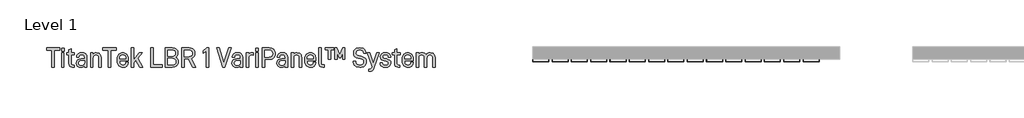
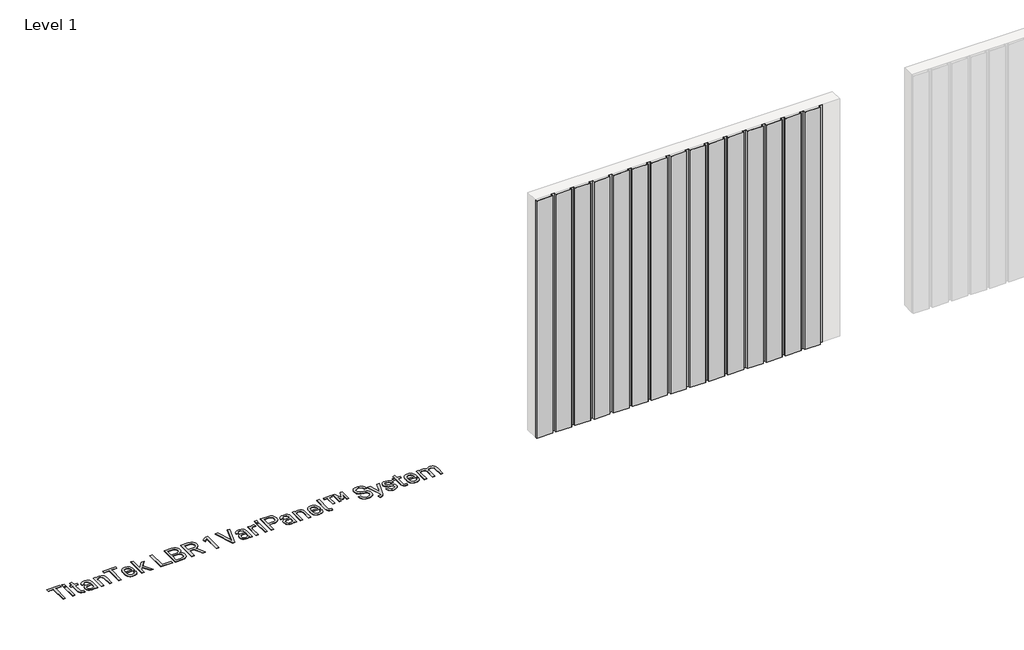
# One storey, part 24 of 33: 2 proxies.
"""IFC4 building model written with IfcOpenShell, lengths in millimetres."""

from ifc_helpers import new_model, si_unit, origin, origin_with_axes, place, context, project, spatial, polyline, outline, extrude, transform, mapped, element, save
from components import aluminum_slate_gray_941ba9cd

model = new_model("IFC4")

# Units and contexts
model_context = context("Model", 3, world=origin())
ifc_project = project(units=[si_unit("LENGTHUNIT", "METRE", prefix="MILLI")], contexts=[model_context])

# Site, building, storey
site = spatial("IfcSite", under=ifc_project)
building = spatial("IfcBuilding", under=site)
storey = spatial("IfcBuildingStorey", under=building, Name="Level 1", Elevation=0.0)

# Proxies
placement = place(None, origin())
element("IfcBuildingElementProxy", 1, Name="600mm Arial 2", ObjectType="600mm Arial 2", at=placement, inside=storey, context=model_context, shape_type="SweptSolid", body=[
    extrude(outline(polyline([(-9914.9924556, 82220.4128343), (-9914.9924556, 81952.9873502), (-9954.4439015, 81952.9873502), (-9954.4439015, 82220.4128343), (-10038.8787304, 82220.4128343), (-10038.8787304, 82257.3166776), (-9830.5576267, 82257.3166776), (-9830.5576267, 82220.4128343), (-9914.9924556, 82220.4128343)])), origin_with_axes(), (0.0, 0.0, 1.0), 5.0),
    extrude(outline(polyline([(-9763.1553408, 82253.0221475), (-9763.1553408, 82205.8551051), (-9802.6067867, 82205.8551051), (-9802.6067867, 82253.0221475), (-9763.1553408, 82253.0221475)])), origin_with_axes(), (0.0, 0.0, 1.0), 5.0),
    extrude(outline(polyline([(-9764.0288046, 82178.8505176), (-9764.0288046, 81952.9873502), (-9801.733323, 81952.9873502), (-9801.733323, 82178.8505176), (-9764.0288046, 82178.8505176)])), origin_with_axes(), (0.0, 0.0, 1.0), 5.0),
    extrude(outline(polyline([(-9648.294858, 82012.601251), (-9646.8208879, 82001.5191797), (-9642.3989777, 81993.6034145), (-9635.0291273, 81988.8539554), (-9624.7113368, 81987.2708023), (-9603.2386864, 81987.2708023), (-9603.2386864, 81952.9873502), (-9629.3698101, 81952.9873502), (-9653.1535001, 81956.9543314), (-9671.3688587, 81968.855275), (-9682.6692959, 81987.3981825), (-9686.4361083, 82011.2910554), (-9686.4361083, 82147.1146681), (-9720.2828285, 82147.1146681), (-9720.2828285, 82178.8505176), (-9686.4361083, 82178.8505176), (-9686.4361083, 82226.8910237), (-9648.294858, 82244.8698192), (-9648.294858, 82178.8505176), (-9599.3808881, 82178.8505176), (-9599.3808881, 82147.1146681), (-9648.294858, 82147.1146681), (-9648.294858, 82012.601251)])), origin_with_axes(), (0.0, 0.0, 1.0), 5.0),
    extrude(outline(polyline([(-9422.8684225, 82162.1091291), (-9413.2830677, 82151.3409589), (-9406.4363858, 82138.2526505), (-9400.9590402, 82105.1156196), (-9400.9590402, 81952.9873502), (-9438.2996154, 81952.9873502), (-9438.2996154, 81969.2920069), (-9456.7151427, 81956.8451485), (-9473.7476858, 81952.0410978), (-9493.9829293, 81950.4397476), (-9526.0281305, 81954.7160806), (-9550.1029751, 81967.5450794), (-9565.2248162, 81989.3270816), (-9570.2654299, 82018.5699199), (-9565.1338304, 82046.2114081), (-9549.7390318, 82067.4111012), (-9525.063681, 82080.6222403), (-9493.1094655, 82085.0259534), (-9438.7363472, 82085.0259534), (-9438.7363472, 82105.5523515), (-9441.6296959, 82124.441005), (-9450.3097419, 82138.1616647), (-9464.2305704, 82146.1866129), (-9483.7197302, 82148.8615956), (-9502.2262434, 82146.6051476), (-9515.819523, 82139.8358036), (-9524.1720201, 82129.4816187), (-9526.9561857, 82115.4516073), (-9526.9561857, 82109.8468816), (-9563.8600291, 82109.8468816), (-9563.8600291, 82116.2522824), (-9558.4008807, 82143.2932642), (-9542.0234354, 82164.2927885), (-9516.8203668, 82177.4493362), (-9484.1564621, 82181.8348521), (-9448.6719974, 82176.9034213), (-9434.5600987, 82170.7391329), (-9422.8684225, 82162.1091291)]), holes=[polyline([(-9450.6736851, 81994.5496669), (-9441.7206817, 82009.4531421), (-9438.7363472, 82031.0167784), (-9438.7363472, 82054.9642428), (-9488.8149354, 82054.9642428), (-9507.9538, 82052.7168933), (-9521.6244175, 82045.974845), (-9529.826788, 82034.7380979), (-9532.5609115, 82019.0066518), (-9529.8540837, 82003.0522906), (-9521.7336004, 81991.6563182), (-9508.1994616, 81984.8187348), (-9489.2516673, 81982.5395404), (-9466.104878, 81985.542072), (-9450.6736851, 81994.5496669)])]), origin_with_axes(), (0.0, 0.0, 1.0), 5.0),
    extrude(outline(polyline([(-9306.6977441, 82178.8505176), (-9306.6977441, 82160.4349903), (-9288.2822167, 82173.6825238), (-9271.1222935, 82179.4692211), (-9252.2518372, 82181.3981202), (-9219.9154813, 82175.9389718), (-9206.7907787, 82169.1150363), (-9195.6950595, 82159.5615265), (-9187.0650557, 82147.9790333), (-9180.9007673, 82134.1946835), (-9175.9693365, 82100.0204144), (-9175.9693365, 81952.9873502), (-9213.673855, 81952.9873502), (-9213.673855, 82095.7258843), (-9216.6763866, 82118.1083928), (-9225.6839815, 82133.8671346), (-9240.3781893, 82143.4752358), (-9259.567096, 82146.6779363), (-9278.7378056, 82143.4752358), (-9293.3774219, 82133.8671346), (-9303.0401146, 82117.453295), (-9306.2610122, 82095.7258843), (-9306.2610122, 81952.9873502), (-9343.9655306, 81952.9873502), (-9343.9655306, 82178.8505176), (-9306.6977441, 82178.8505176)])), origin_with_axes(), (0.0, 0.0, 1.0), 5.0),
    extrude(outline(polyline([(-9025.2240514, 82220.4128343), (-9025.2240514, 81952.9873502), (-9064.6754974, 81952.9873502), (-9064.6754974, 82220.4128343), (-9149.1103263, 82220.4128343), (-9149.1103263, 82257.3166776), (-8940.7892225, 82257.3166776), (-8940.7892225, 82220.4128343), (-9025.2240514, 82220.4128343)])), origin_with_axes(), (0.0, 0.0, 1.0), 5.0),
    extrude(outline(polyline([(-8884.5235994, 82047.2486463), (-8881.1025331, 82017.8329349), (-8870.8393341, 81998.8805913), (-8854.3527058, 81988.5900965), (-8832.2613519, 81985.1599316), (-8812.990558, 81987.7257314), (-8798.8513635, 81995.4231306), (-8790.1713175, 82007.1966941), (-8787.2779689, 82022.86445), (-8787.2779689, 82028.3963871), (-8750.3741256, 82028.3963871), (-8750.3741256, 82021.9909863), (-8756.0516399, 81992.8391337), (-8763.1485329, 81980.528754), (-8773.084183, 81969.7287387), (-8799.7976159, 81955.2619954), (-8834.3722226, 81950.4397476), (-8853.3222916, 81951.9387388), (-8870.2843206, 81956.4357123), (-8885.2583098, 81963.9306682), (-8898.2442591, 81974.4236064), (-8908.7371973, 81988.0237099), (-8916.2321532, 82004.8401617), (-8920.7291267, 82024.8729617), (-8922.2281179, 82048.1221101), (-8922.2281179, 82085.8266285), (-8920.7314014, 82108.5321367), (-8916.2412518, 82128.1714231), (-8908.7576691, 82144.7444879), (-8898.2806535, 82158.2513309), (-8885.4971476, 82168.5691214), (-8870.7301511, 82175.9389718), (-8853.979664, 82180.360882), (-8835.2456864, 82181.8348521), (-8816.8438069, 82180.360882), (-8800.2161506, 82175.9389718), (-8785.3627176, 82168.5691214), (-8772.2835079, 82158.2513309), (-8761.9657174, 82144.9082623), (-8754.595867, 82128.389789), (-8750.1739568, 82108.6959111), (-8748.6999867, 82085.8266285), (-8748.6999867, 82055.8377065), (-8884.5235994, 82055.8377065), (-8884.5235994, 82047.2486463)]), holes=[polyline([(-8871.2760659, 82133.4304027), (-8881.2117161, 82115.30603), (-8884.5235994, 82086.7000923), (-8786.4045051, 82086.2633604), (-8786.4045051, 82089.6844267), (-8789.6254027, 82116.9255774), (-8799.2880954, 82134.3038665), (-8814.9012599, 82143.5844188), (-8835.2456864, 82146.6779363), (-8855.60831, 82143.3660529), (-8871.2760659, 82133.4304027)])]), origin_with_axes(), (0.0, 0.0, 1.0), 5.0),
    extrude(outline(polyline([(-8663.391694, 82020.3168474), (-8663.391694, 81952.9873502), (-8701.0962125, 81952.9873502), (-8701.0962125, 82257.3166776), (-8663.391694, 82257.3166776), (-8663.391694, 82070.8321675), (-8575.0990669, 82178.8505176), (-8528.3687564, 82178.8505176), (-8602.5403863, 82091.8680861), (-8517.6688255, 81952.9873502), (-8563.5256722, 81952.9873502), (-8627.7980463, 82062.6798392), (-8663.391694, 82020.3168474)])), origin_with_axes(), (0.0, 0.0, 1.0), 5.0),
    extrude(outline(polyline([(-8356.2963981, 82257.3166776), (-8356.2963981, 81989.8184049), (-8208.8993907, 81989.8184049), (-8208.8993907, 81952.9873502), (-8396.1845759, 81952.9873502), (-8396.1845759, 82257.3166776), (-8356.2963981, 82257.3166776)])), origin_with_axes(), (0.0, 0.0, 1.0), 5.0),
    extrude(outline(polyline([(-7972.0451379, 82085.8266285), (-7962.0548962, 82064.117415), (-7958.7248157, 82038.2956429), (-7960.3056941, 82019.4251865), (-7965.0483293, 82002.7019952), (-7972.9527213, 81988.1260689), (-7984.0188701, 81975.6974077), (-7997.7918466, 81965.7617575), (-8013.8167219, 81958.6648646), (-8052.6221686, 81952.9873502), (-8167.9193832, 81952.9873502), (-8167.9193832, 82257.3166776), (-8055.1697712, 82257.3166776), (-8016.7373663, 82251.948515), (-8001.1242018, 82245.2383117), (-7987.9130626, 82235.8440271), (-7977.2131317, 82223.8520978), (-7969.5703239, 82209.7129034), (-7964.9846392, 82193.4264439), (-7963.4560777, 82174.9927194), (-7966.6769752, 82152.1552818), (-7976.3396679, 82131.6834753), (-7987.7856825, 82118.6179134), (-8001.597328, 82109.4101497), (-7984.7831508, 82099.2197393), (-7972.0451379, 82085.8266285)]), holes=[polyline([(-8013.6074545, 82002.7019952), (-8002.3616088, 82018.351554), (-7998.6129935, 82040.4065136), (-8002.2524258, 82062.0793329), (-8013.1707226, 82077.310357), (-8031.1677153, 82086.9184582), (-8056.0432349, 82090.1211586), (-8128.0312054, 82090.1211586), (-8128.0312054, 81989.4544617), (-8056.4799668, 81989.4544617), (-8031.6044471, 81992.7663451), (-8013.6074545, 82002.7019952)]), polyline([(-8128.0312054, 82126.5882701), (-8058.5908375, 82126.5882701), (-8035.2438794, 82129.4816187), (-8017.4652527, 82138.1616647), (-8006.8745048, 82152.737591), (-8003.3442555, 82173.3185806), (-8006.7653218, 82193.77219), (-8017.0285209, 82208.8394396), (-8034.2066412, 82217.8470345), (-8058.2268943, 82220.8495661), (-8128.0312054, 82220.8495661), (-8128.0312054, 82126.5882701)])]), origin_with_axes(), (0.0, 0.0, 1.0), 5.0),
    extrude(outline(polyline([(-7862.4982262, 82082.842294), (-7862.4982262, 81952.9873502), (-7902.386404, 81952.9873502), (-7902.386404, 82257.3166776), (-7788.3993849, 82257.3166776), (-7749.9123886, 82251.6391632), (-7733.9580273, 82244.5422703), (-7720.196424, 82234.6066202), (-7709.1461977, 82221.8777058), (-7701.253179, 82206.8377519), (-7696.5173677, 82189.4867585), (-7694.938764, 82169.8247256), (-7699.3242799, 82139.8540007), (-7712.4808275, 82115.0148754), (-7731.5696499, 82097.9641352), (-7756.2268036, 82087.1368241), (-7685.5490287, 81952.9873502), (-7731.4058754, 81952.9873502), (-7798.2258521, 82082.842294), (-7862.4982262, 82082.842294)]), holes=[polyline([(-7790.9469875, 82118.4359417), (-7766.6173827, 82121.7478251), (-7749.3846709, 82131.6834753), (-7738.466374, 82147.5695972), (-7734.8269418, 82169.4607823), (-7738.3571911, 82191.6158263), (-7748.947939, 82207.5656383), (-7766.5081998, 82217.2010353), (-7790.9469875, 82220.4128343), (-7862.4982262, 82220.4128343), (-7862.4982262, 82118.4359417), (-7790.9469875, 82118.4359417)])]), origin_with_axes(), (0.0, 0.0, 1.0), 5.0),
    extrude(outline(polyline([(-7565.8117066, 82170.2614574), (-7565.8117066, 82216.1183042), (-7512.2392634, 82257.3166776), (-7475.4082087, 82257.3166776), (-7475.4082087, 81952.9873502), (-7514.8596547, 81952.9873502), (-7514.8596547, 82208.4027077), (-7565.8117066, 82170.2614574)])), origin_with_axes(), (0.0, 0.0, 1.0), 5.0),
    extrude(outline(polyline([(-7164.4551146, 82257.3166776), (-7122.892798, 82257.3166776), (-7222.3220879, 81952.9873502), (-7254.0579374, 81952.9873502), (-7353.0504954, 82257.3166776), (-7311.4881788, 82257.3166776), (-7237.7532808, 82022.86445), (-7164.4551146, 82257.3166776)])), origin_with_axes(), (0.0, 0.0, 1.0), 5.0),
    extrude(outline(polyline([(-6963.1945095, 82162.1091291), (-6953.6091547, 82151.3409589), (-6946.7624727, 82138.2526505), (-6941.2851271, 82105.1156196), (-6941.2851271, 81952.9873502), (-6978.6257023, 81952.9873502), (-6978.6257023, 81969.2920069), (-6997.0412297, 81956.8451485), (-7014.0737728, 81952.0410978), (-7034.3090162, 81950.4397476), (-7066.3542175, 81954.7160806), (-7090.429062, 81967.5450794), (-7105.5509031, 81989.3270816), (-7110.5915169, 82018.5699199), (-7105.4599173, 82046.2114081), (-7090.0651188, 82067.4111012), (-7065.3897679, 82080.6222403), (-7033.4355525, 82085.0259534), (-6979.0624342, 82085.0259534), (-6979.0624342, 82105.5523515), (-6981.9557829, 82124.441005), (-6990.6358289, 82138.1616647), (-7004.5566573, 82146.1866129), (-7024.0458172, 82148.8615956), (-7042.5523304, 82146.6051476), (-7056.1456099, 82139.8358036), (-7064.498107, 82129.4816187), (-7067.2822727, 82115.4516073), (-7067.2822727, 82109.8468816), (-7104.186116, 82109.8468816), (-7104.186116, 82116.2522824), (-7098.7269676, 82143.2932642), (-7082.3495224, 82164.2927885), (-7057.1464538, 82177.4493362), (-7024.4825491, 82181.8348521), (-6988.9980843, 82176.9034213), (-6974.8861857, 82170.7391329), (-6963.1945095, 82162.1091291)]), holes=[polyline([(-6990.9997721, 81994.5496669), (-6982.0467687, 82009.4531421), (-6979.0624342, 82031.0167784), (-6979.0624342, 82054.9642428), (-7029.1410224, 82054.9642428), (-7048.2798869, 82052.7168933), (-7061.9505044, 82045.974845), (-7070.1528749, 82034.7380979), (-7072.8869984, 82019.0066518), (-7070.1801707, 82003.0522906), (-7062.0596874, 81991.6563182), (-7048.5255486, 81984.8187348), (-7029.5777543, 81982.5395404), (-7006.430965, 81985.542072), (-6990.9997721, 81994.5496669)])]), origin_with_axes(), (0.0, 0.0, 1.0), 5.0),
    extrude(outline(polyline([(-6794.3248516, 82181.8348521), (-6774.1623968, 82179.7239814), (-6774.1623968, 82140.7092673), (-6800.7302524, 82146.313993), (-6819.0638925, 82142.7746451), (-6833.7399032, 82132.1566015), (-6843.3753002, 82115.7518604), (-6846.5870992, 82094.8524206), (-6846.5870992, 81952.9873502), (-6884.2916176, 81952.9873502), (-6884.2916176, 82178.8505176), (-6847.023831, 82178.8505176), (-6847.023831, 82159.1247947), (-6829.4817674, 82173.3185806), (-6813.3772796, 82179.7057842), (-6794.3248516, 82181.8348521)])), origin_with_axes(), (0.0, 0.0, 1.0), 5.0),
    extrude(outline(polyline([(-6697.8798961, 82253.0221475), (-6697.8798961, 82205.8551051), (-6737.3313421, 82205.8551051), (-6737.3313421, 82253.0221475), (-6697.8798961, 82253.0221475)])), origin_with_axes(), (0.0, 0.0, 1.0), 5.0),
    extrude(outline(polyline([(-6698.7533599, 82178.8505176), (-6698.7533599, 81952.9873502), (-6736.4578783, 81952.9873502), (-6736.4578783, 82178.8505176), (-6698.7533599, 82178.8505176)])), origin_with_axes(), (0.0, 0.0, 1.0), 5.0),
    extrude(outline(polyline([(-6453.5284128, 82233.2964245), (-6442.0960461, 82219.8396237), (-6433.9300699, 82203.926206), (-6429.0304842, 82185.5561716), (-6427.397289, 82164.7295204), (-6429.05778, 82145.044741), (-6434.0392529, 82127.5527196), (-6442.3417078, 82112.2534562), (-6453.9651446, 82099.1469507), (-6468.0224518, 82088.6380899), (-6484.4999815, 82081.1317609), (-6503.3977336, 82076.6279634), (-6524.7157082, 82075.1266976), (-6595.3934831, 82075.1266976), (-6595.3934831, 81952.9873502), (-6635.2816609, 81952.9873502), (-6635.2816609, 82257.3166776), (-6524.7157082, 82257.3166776), (-6503.5342123, 82255.8154118), (-6484.6091645, 82251.3116143), (-6467.9405646, 82243.8052853), (-6453.5284128, 82233.2964245)]), holes=[polyline([(-6482.2799278, 82125.2780744), (-6471.034082, 82141.5827311), (-6467.2854668, 82164.7295204), (-6471.143265, 82189.3502798), (-6482.7166597, 82206.7285689), (-6501.7872848, 82216.9917679), (-6527.2633108, 82220.4128343), (-6595.3934831, 82220.4128343), (-6595.3934831, 82112.0305409), (-6527.2633108, 82112.0305409), (-6501.023004, 82115.3424243), (-6482.2799278, 82125.2780744)])]), origin_with_axes(), (0.0, 0.0, 1.0), 5.0),
    extrude(outline(polyline([(-6255.1065648, 82162.1091291), (-6245.52121, 82151.3409589), (-6238.674528, 82138.2526505), (-6233.1971825, 82105.1156196), (-6233.1971825, 81952.9873502), (-6270.5377577, 81952.9873502), (-6270.5377577, 81969.2920069), (-6288.953285, 81956.8451485), (-6305.9858281, 81952.0410978), (-6326.2210716, 81950.4397476), (-6358.2662728, 81954.7160806), (-6382.3411174, 81967.5450794), (-6397.4629585, 81989.3270816), (-6402.5035722, 82018.5699199), (-6397.3719727, 82046.2114081), (-6381.9771741, 82067.4111012), (-6357.3018233, 82080.6222403), (-6325.3476078, 82085.0259534), (-6270.9744895, 82085.0259534), (-6270.9744895, 82105.5523515), (-6273.8678382, 82124.441005), (-6282.5478842, 82138.1616647), (-6296.4687127, 82146.1866129), (-6315.9578725, 82148.8615956), (-6334.4643857, 82146.6051476), (-6348.0576653, 82139.8358036), (-6356.4101623, 82129.4816187), (-6359.194328, 82115.4516073), (-6359.194328, 82109.8468816), (-6396.0981714, 82109.8468816), (-6396.0981714, 82116.2522824), (-6390.639023, 82143.2932642), (-6374.2615777, 82164.2927885), (-6349.0585091, 82177.4493362), (-6316.3946044, 82181.8348521), (-6280.9101397, 82176.9034213), (-6266.798241, 82170.7391329), (-6255.1065648, 82162.1091291)]), holes=[polyline([(-6282.9118274, 81994.5496669), (-6273.958824, 82009.4531421), (-6270.9744895, 82031.0167784), (-6270.9744895, 82054.9642428), (-6321.0530777, 82054.9642428), (-6340.1919422, 82052.7168933), (-6353.8625598, 82045.974845), (-6362.0649303, 82034.7380979), (-6364.7990538, 82019.0066518), (-6362.092226, 82003.0522906), (-6353.9717427, 81991.6563182), (-6340.4376039, 81984.8187348), (-6321.4898096, 81982.5395404), (-6298.3430203, 81985.542072), (-6282.9118274, 81994.5496669)])]), origin_with_axes(), (0.0, 0.0, 1.0), 5.0),
    extrude(outline(polyline([(-6138.9358864, 82178.8505176), (-6138.9358864, 82160.4349903), (-6120.520359, 82173.6825238), (-6103.3604358, 82179.4692211), (-6084.4899794, 82181.3981202), (-6052.1536236, 82175.9389718), (-6039.028921, 82169.1150363), (-6027.9332018, 82159.5615265), (-6019.303198, 82147.9790333), (-6013.1389096, 82134.1946835), (-6008.2074788, 82100.0204144), (-6008.2074788, 81952.9873502), (-6045.9119973, 81952.9873502), (-6045.9119973, 82095.7258843), (-6048.9145289, 82118.1083928), (-6057.9221238, 82133.8671346), (-6072.6163316, 82143.4752358), (-6091.8052383, 82146.6779363), (-6110.9759479, 82143.4752358), (-6125.6155642, 82133.8671346), (-6135.2782569, 82117.453295), (-6138.4991545, 82095.7258843), (-6138.4991545, 81952.9873502), (-6176.2036729, 81952.9873502), (-6176.2036729, 82178.8505176), (-6138.9358864, 82178.8505176)])), origin_with_axes(), (0.0, 0.0, 1.0), 5.0),
    extrude(outline(polyline([(-5921.7345678, 82047.2486463), (-5918.3135015, 82017.8329349), (-5908.0503024, 81998.8805913), (-5891.5636742, 81988.5900965), (-5869.4723203, 81985.1599316), (-5850.2015263, 81987.7257314), (-5836.0623319, 81995.4231306), (-5827.3822859, 82007.1966941), (-5824.4889373, 82022.86445), (-5824.4889373, 82028.3963871), (-5787.5850939, 82028.3963871), (-5787.5850939, 82021.9909863), (-5793.2626083, 81992.8391337), (-5800.3595012, 81980.528754), (-5810.2951514, 81969.7287387), (-5837.0085843, 81955.2619954), (-5871.583191, 81950.4397476), (-5890.5332599, 81951.9387388), (-5907.495289, 81956.4357123), (-5922.4692782, 81963.9306682), (-5935.4552275, 81974.4236064), (-5945.9481657, 81988.0237099), (-5953.4431216, 82004.8401617), (-5957.9400951, 82024.8729617), (-5959.4390863, 82048.1221101), (-5959.4390863, 82085.8266285), (-5957.9423697, 82108.5321367), (-5953.4522202, 82128.1714231), (-5945.9686375, 82144.7444879), (-5935.4916218, 82158.2513309), (-5922.708116, 82168.5691214), (-5907.9411195, 82175.9389718), (-5891.1906324, 82180.360882), (-5872.4566547, 82181.8348521), (-5854.0547753, 82180.360882), (-5837.427119, 82175.9389718), (-5822.573686, 82168.5691214), (-5809.4944763, 82158.2513309), (-5799.1766857, 82144.9082623), (-5791.8068354, 82128.389789), (-5787.3849252, 82108.6959111), (-5785.9109551, 82085.8266285), (-5785.9109551, 82055.8377065), (-5921.7345678, 82055.8377065), (-5921.7345678, 82047.2486463)]), holes=[polyline([(-5908.4870343, 82133.4304027), (-5918.4226844, 82115.30603), (-5921.7345678, 82086.7000923), (-5823.6154735, 82086.2633604), (-5823.6154735, 82089.6844267), (-5826.8363711, 82116.9255774), (-5836.4990638, 82134.3038665), (-5852.1122283, 82143.5844188), (-5872.4566547, 82146.6779363), (-5892.8192783, 82143.3660529), (-5908.4870343, 82133.4304027)])]), origin_with_axes(), (0.0, 0.0, 1.0), 5.0),
    extrude(outline(polyline([(-5723.3127198, 81968.855275), (-5734.5585656, 81988.362632), (-5738.3071808, 82014.2753899), (-5738.3071808, 82257.3166776), (-5700.6026624, 82257.3166776), (-5700.6026624, 82016.0223174), (-5699.2196781, 82002.6110094), (-5695.0707253, 81994.112935), (-5688.0830154, 81989.6364333), (-5677.4558731, 81988.1442661), (-5655.6192794, 81988.1442661), (-5655.6192794, 81952.9873502), (-5680.4402076, 81952.9873502), (-5705.3157272, 81956.9543314), (-5723.3127198, 81968.855275)])), origin_with_axes(), (0.0, 0.0, 1.0), 5.0),
    extrude(outline(polyline([(-5636.8398088, 82226.01756), (-5636.8398088, 82257.3166776), (-5504.8739943, 82257.3166776), (-5504.8739943, 82226.01756), (-5553.7151755, 82226.01756), (-5553.7151755, 82079.8579596), (-5587.5618957, 82079.8579596), (-5587.5618957, 82226.01756), (-5636.8398088, 82226.01756)])), origin_with_axes(), (0.0, 0.0, 1.0), 5.0),
    extrude(outline(polyline([(-5359.1511258, 82257.3166776), (-5328.7254719, 82257.3166776), (-5328.7254719, 82079.8579596), (-5361.2619965, 82079.8579596), (-5361.2619965, 82178.4137857), (-5394.3080416, 82104.6788877), (-5417.8915628, 82104.6788877), (-5451.3015511, 82178.4137857), (-5451.3015511, 82079.8579596), (-5483.8380757, 82079.8579596), (-5483.8380757, 82257.3166776), (-5453.4124219, 82257.3166776), (-5405.8814363, 82149.7350594), (-5359.1511258, 82257.3166776)])), origin_with_axes(), (0.0, 0.0, 1.0), 5.0),
    extrude(outline(polyline([(-5166.9163127, 81973.1498051), (-5179.1038615, 81986.7931268), (-5188.2979773, 82003.3388959), (-5194.4986601, 82022.7871121), (-5197.7059098, 82045.1377756), (-5158.3272525, 82045.1377756), (-5152.7270761, 82019.4388344), (-5139.784345, 82001.0824478), (-5119.4990593, 81990.0686159), (-5091.871219, 81986.3973386), (-5063.8293933, 81989.7274191), (-5043.9035016, 81999.7176607), (-5032.002558, 82015.5855855), (-5028.0355768, 82037.4221792), (-5031.1472914, 82057.020522), (-5040.4824352, 82071.2688994), (-5056.7325003, 82081.0225779), (-5079.8610925, 82087.1368241), (-5113.3438695, 82092.7415498), (-5146.1169572, 82102.3678482), (-5170.7741109, 82118.4359417), (-5179.75441, 82129.313295), (-5186.1689094, 82142.2196317), (-5191.3005089, 82174.1192557), (-5189.5581307, 82193.5902184), (-5184.3309961, 82210.8047331), (-5175.6191051, 82225.7627997), (-5163.4224577, 82238.4644184), (-5148.6873062, 82248.4000685), (-5131.8503826, 82255.4969615), (-5091.871219, 82261.1744758), (-5054.7126154, 82255.8063132), (-5038.7810006, 82249.0961099), (-5024.6145105, 82239.7018254), (-5012.1767506, 82226.8455308), (-5002.7415225, 82210.9867047), (-4996.3088259, 82192.1253469), (-4992.878661, 82170.2614574), (-5032.3301069, 82170.2614574), (-5037.1978476, 82194.4636821), (-5048.8167351, 82211.7509854), (-5067.1867696, 82222.1233674), (-5092.3079509, 82225.5808281), (-5118.2207087, 82222.2507476), (-5136.854602, 82212.260506), (-5148.4279967, 82196.6473415), (-5152.2857949, 82176.302915), (-5149.3924462, 82158.5060912), (-5140.7124002, 82145.4405293), (-5125.2812074, 82135.9052167), (-5103.0078818, 82129.5726045), (-5068.7244297, 82123.6039356), (-5034.6593436, 82113.613694), (-5009.6200495, 82096.5993481), (-5000.4168351, 82085.285263), (-4993.8431105, 82071.9421944), (-4988.5841309, 82039.1691067), (-4990.3811006, 82019.1567784), (-4995.7720096, 82001.555574), (-5004.7568581, 81986.3654935), (-5017.3356459, 81973.586537), (-5032.7213459, 81963.4598166), (-5050.6364513, 81956.226445), (-5071.0809621, 81951.886422), (-5094.0548784, 81950.4397476), (-5134.9802944, 81956.117262), (-5152.0719782, 81963.2141549), (-5166.9163127, 81973.1498051)])), origin_with_axes(), (0.0, 0.0, 1.0), 5.0),
    extrude(outline(polyline([(-4825.5375647, 82178.8505176), (-4786.0861187, 82178.8505176), (-4871.8311433, 81932.3881635), (-4881.3664559, 81912.5714548), (-4894.5412007, 81898.5414433), (-4911.3553779, 81890.5164951), (-4932.682451, 81887.8415124), (-4949.7877828, 81887.8415124), (-4949.7877828, 81922.9984282), (-4934.7933218, 81922.9984282), (-4922.0553088, 81924.3996097), (-4913.8301918, 81928.603154), (-4907.4065938, 81935.6454554), (-4901.8200653, 81947.4554132), (-4898.3989989, 81959.3927511), (-4974.2447677, 82178.8505176), (-4933.5559148, 82178.8505176), (-4879.5467397, 82014.7121217), (-4825.5375647, 82178.8505176)])), origin_with_axes(), (0.0, 0.0, 1.0), 5.0),
    extrude(outline(polyline([(-4748.8911208, 81968.4185431), (-4759.0178411, 81978.5953056), (-4766.2512128, 81990.273334), (-4772.0379101, 82018.1331881), (-4772.0379101, 82024.1746457), (-4735.2068554, 82024.1746457), (-4735.2068554, 82018.5699199), (-4732.0951408, 82004.3215426), (-4722.759997, 81993.3122599), (-4707.6381559, 81986.215367), (-4688.0398131, 81983.849736), (-4667.4770207, 81986.106184), (-4652.0822221, 81992.875528), (-4643.0746272, 82003.5572618), (-4640.0720956, 82017.6964562), (-4642.1101777, 82029.9431458), (-4648.2244239, 82038.2956429), (-4659.5430583, 82044.391692), (-4677.3398822, 82048.9955738), (-4704.3444697, 82053.7268358), (-4732.9322103, 82061.751784), (-4752.748919, 82073.8892906), (-4764.6498626, 82091.3403684), (-4768.6168438, 82115.4516073), (-4762.9393294, 82142.7655466), (-4755.8424365, 82154.0887302), (-4745.9067864, 82163.8560566), (-4720.7401121, 82177.3401532), (-4688.9132768, 82181.8348521), (-4654.8481907, 82177.4493362), (-4628.9354328, 82164.2927885), (-4611.5753408, 82143.9119677), (-4605.7886435, 82117.9992099), (-4605.7886435, 82111.1570772), (-4642.6196982, 82111.1570772), (-4642.6196982, 82116.6890143), (-4645.5130469, 82129.9001534), (-4654.1930929, 82140.2725354), (-4668.8782021, 82147.0418795), (-4688.0398131, 82149.2983275), (-4707.1104382, 82147.0418795), (-4720.6491263, 82140.2725354), (-4729.0016234, 82130.300491), (-4731.7857891, 82116.6890143), (-4729.85689, 82105.7889146), (-4724.0701927, 82097.836755), (-4713.5704305, 82091.631523), (-4697.502337, 82087.573556), (-4669.1875539, 82082.4055622), (-4640.1630814, 82074.0712622), (-4619.9096408, 82061.8791641), (-4607.3535994, 82043.9549601), (-4603.1682523, 82019.4433837), (-4604.6695181, 82003.8620642), (-4609.1733155, 81990.164151), (-4616.6796446, 81978.3496439), (-4627.1885053, 81968.4185431), (-4654.5206418, 81954.9344465), (-4689.3500087, 81950.4397476), (-4722.6508141, 81954.9344465), (-4748.8911208, 81968.4185431)])), origin_with_axes(), (0.0, 0.0, 1.0), 5.0),
    extrude(outline(polyline([(-4505.3403126, 82012.601251), (-4503.8663425, 82001.5191797), (-4499.4444323, 81993.6034145), (-4492.0745819, 81988.8539554), (-4481.7567914, 81987.2708023), (-4460.2841409, 81987.2708023), (-4460.2841409, 81952.9873502), (-4486.4152647, 81952.9873502), (-4510.1989547, 81956.9543314), (-4528.4143132, 81968.855275), (-4539.7147505, 81987.3981825), (-4543.4815629, 82011.2910554), (-4543.4815629, 82147.1146681), (-4577.3282831, 82147.1146681), (-4577.3282831, 82178.8505176), (-4543.4815629, 82178.8505176), (-4543.4815629, 82226.8910237), (-4505.3403126, 82244.8698192), (-4505.3403126, 82178.8505176), (-4456.4263427, 82178.8505176), (-4456.4263427, 82147.1146681), (-4505.3403126, 82147.1146681), (-4505.3403126, 82012.601251)])), origin_with_axes(), (0.0, 0.0, 1.0), 5.0),
    extrude(outline(polyline([(-4384.4383722, 82047.2486463), (-4381.0173058, 82017.8329349), (-4370.7541068, 81998.8805913), (-4354.2674786, 81988.5900965), (-4332.1761246, 81985.1599316), (-4312.9053307, 81987.7257314), (-4298.7661363, 81995.4231306), (-4290.0860903, 82007.1966941), (-4287.1927416, 82022.86445), (-4287.1927416, 82028.3963871), (-4250.2888983, 82028.3963871), (-4250.2888983, 82021.9909863), (-4255.9664126, 81992.8391337), (-4263.0633056, 81980.528754), (-4272.9989557, 81969.7287387), (-4299.7123887, 81955.2619954), (-4334.2869953, 81950.4397476), (-4353.2370643, 81951.9387388), (-4370.1990934, 81956.4357123), (-4385.1730826, 81963.9306682), (-4398.1590319, 81974.4236064), (-4408.6519701, 81988.0237099), (-4416.1469259, 82004.8401617), (-4420.6438994, 82024.8729617), (-4422.1428906, 82048.1221101), (-4422.1428906, 82085.8266285), (-4420.6461741, 82108.5321367), (-4416.1560245, 82128.1714231), (-4408.6724419, 82144.7444879), (-4398.1954262, 82158.2513309), (-4385.4119203, 82168.5691214), (-4370.6449238, 82175.9389718), (-4353.8944367, 82180.360882), (-4335.1604591, 82181.8348521), (-4316.7585796, 82180.360882), (-4300.1309234, 82175.9389718), (-4285.2774904, 82168.5691214), (-4272.1982806, 82158.2513309), (-4261.8804901, 82144.9082623), (-4254.5106397, 82128.389789), (-4250.0887295, 82108.6959111), (-4248.6147594, 82085.8266285), (-4248.6147594, 82055.8377065), (-4384.4383722, 82055.8377065), (-4384.4383722, 82047.2486463)]), holes=[polyline([(-4371.1908387, 82133.4304027), (-4381.1264888, 82115.30603), (-4384.4383722, 82086.7000923), (-4286.3192779, 82086.2633604), (-4286.3192779, 82089.6844267), (-4289.5401754, 82116.9255774), (-4299.2028681, 82134.3038665), (-4314.8160326, 82143.5844188), (-4335.1604591, 82146.6779363), (-4355.5230827, 82143.3660529), (-4371.1908387, 82133.4304027)])]), origin_with_axes(), (0.0, 0.0, 1.0), 5.0),
    extrude(outline(polyline([(-4163.7431986, 82178.8505176), (-4163.7431986, 82159.9982584), (-4145.3276713, 82173.3185806), (-4128.386114, 82179.3782353), (-4109.2972917, 82181.3981202), (-4087.6608668, 82178.9415034), (-4069.0451707, 82171.5716531), (-4056.9258612, 82162.1455234), (-4046.3351132, 82149.2983275), (-4033.8837055, 82163.3419868), (-4018.802808, 82173.373172), (-4001.0924207, 82179.3918832), (-3980.7525435, 82181.3981202), (-3948.2706104, 82175.9389718), (-3935.0185276, 82169.1150363), (-3923.759034, 82159.5615265), (-3914.7468898, 82147.9790333), (-3908.309644, 82134.1946835), (-3903.1598473, 82100.0204144), (-3903.1598473, 81952.9873502), (-3940.8643657, 81952.9873502), (-3940.8643657, 82095.7258843), (-3943.8668973, 82118.1083928), (-3952.8744922, 82133.8671346), (-3967.0136867, 82143.4752358), (-3986.2844806, 82146.6779363), (-4006.0284007, 82143.4752358), (-4020.5679327, 82133.8671346), (-4029.9030765, 82117.7626468), (-4033.0147911, 82096.9632913), (-4033.0147911, 81952.9873502), (-4071.1560414, 81952.9873502), (-4071.1560414, 82095.7258843), (-4074.158573, 82118.1083928), (-4083.1661679, 82133.8671346), (-4097.3053623, 82143.4752358), (-4116.5761563, 82146.6779363), (-4135.7741615, 82143.4752358), (-4150.4228765, 82133.8671346), (-4160.0855692, 82117.453295), (-4163.3064668, 82095.7258843), (-4163.3064668, 81952.9873502), (-4201.0109852, 81952.9873502), (-4201.0109852, 82178.8505176), (-4163.7431986, 82178.8505176)])), origin_with_axes(), (0.0, 0.0, 1.0), 5.0),
])
aluminum_slate_gray_shape = aluminum_slate_gray_941ba9cd(model_context)
element("IfcBuildingElementProxy", 2, Name="TitanTek LBR 1 VariPanel™ System : Aluminum Slate Gray", ObjectType="TitanTek LBR 1 VariPanel™ System : Aluminum Slate Gray", at=placement, inside=storey, context=model_context, shape_type="MappedRepresentation", body=[
    mapped(aluminum_slate_gray_shape, transform((-2360.5897817, 82078.6095025, 0.0), x_axis=(1.0, 0.0, 0.0), y_axis=(0.0, 1.0, 0.0), z_axis=(0.0, 0.0, 1.0))),
])

save(model, "model.ifc")
